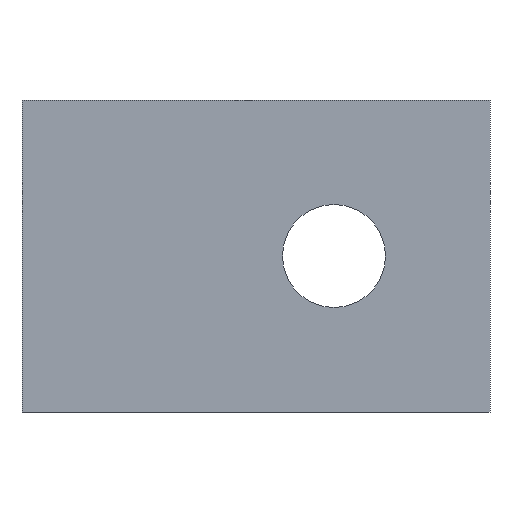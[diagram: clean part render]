
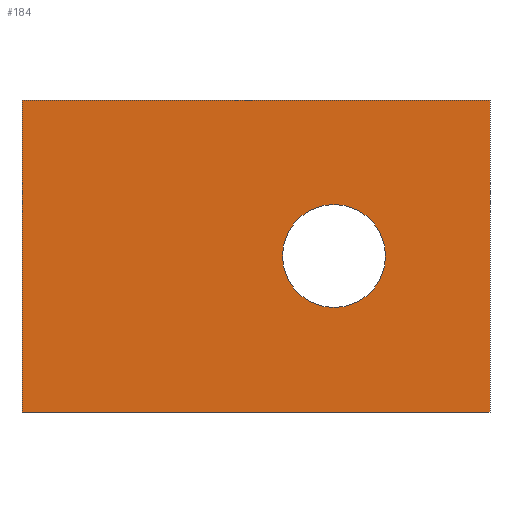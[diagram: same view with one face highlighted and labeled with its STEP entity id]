
A CAD part, front view. The second image highlights one B-rep face of the part: STEP entity #184.
In plain terms, the highlighted planar face has unit normal (0, -1, 0).
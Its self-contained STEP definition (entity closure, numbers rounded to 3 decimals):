
#22=LINE('',#273,#40);
#23=LINE('',#276,#41);
#24=LINE('',#278,#42);
#25=LINE('',#280,#43);
#40=VECTOR('',#227,1000.);
#41=VECTOR('',#228,1000.);
#42=VECTOR('',#229,1000.);
#43=VECTOR('',#230,1000.);
#58=ORIENTED_EDGE('',*,*,#102,.T.);
#59=ORIENTED_EDGE('',*,*,#103,.T.);
#60=ORIENTED_EDGE('',*,*,#104,.F.);
#61=ORIENTED_EDGE('',*,*,#105,.F.);
#62=ORIENTED_EDGE('',*,*,#106,.T.);
#102=EDGE_CURVE('',#124,#124,#140,.T.);
#103=EDGE_CURVE('',#125,#126,#22,.T.);
#104=EDGE_CURVE('',#127,#126,#23,.T.);
#105=EDGE_CURVE('',#128,#127,#24,.T.);
#106=EDGE_CURVE('',#128,#125,#25,.T.);
#124=VERTEX_POINT('',#272);
#125=VERTEX_POINT('',#274);
#126=VERTEX_POINT('',#275);
#127=VERTEX_POINT('',#277);
#128=VERTEX_POINT('',#279);
#140=CIRCLE('',#208,3.3);
#144=EDGE_LOOP('',(#58));
#145=EDGE_LOOP('',(#59,#60,#61,#62));
#160=FACE_BOUND('',#144,.T.);
#161=FACE_BOUND('',#145,.T.);
#176=PLANE('',#207);
#184=ADVANCED_FACE('',(#160,#161),#176,.F.);
#207=AXIS2_PLACEMENT_3D('',#270,#223,#224);
#208=AXIS2_PLACEMENT_3D('',#271,#225,#226);
#223=DIRECTION('',(0.,1.,0.));
#224=DIRECTION('',(-1.,0.,0.));
#225=DIRECTION('',(0.,1.,0.));
#226=DIRECTION('',(-1.,0.,0.));
#227=DIRECTION('',(1.,0.,0.));
#228=DIRECTION('',(0.,0.,-1.));
#229=DIRECTION('',(1.,0.,0.));
#230=DIRECTION('',(0.,0.,-1.));
#270=CARTESIAN_POINT('',(30.,0.,20.));
#271=CARTESIAN_POINT('',(20.,0.,10.));
#272=CARTESIAN_POINT('',(16.7,0.,10.));
#273=CARTESIAN_POINT('',(30.,0.,0.));
#274=CARTESIAN_POINT('',(0.,0.,0.));
#275=CARTESIAN_POINT('',(30.,0.,0.));
#276=CARTESIAN_POINT('',(30.,0.,20.));
#277=CARTESIAN_POINT('',(30.,0.,20.));
#278=CARTESIAN_POINT('',(30.,0.,20.));
#279=CARTESIAN_POINT('',(0.,0.,20.));
#280=CARTESIAN_POINT('',(0.,0.,20.));
